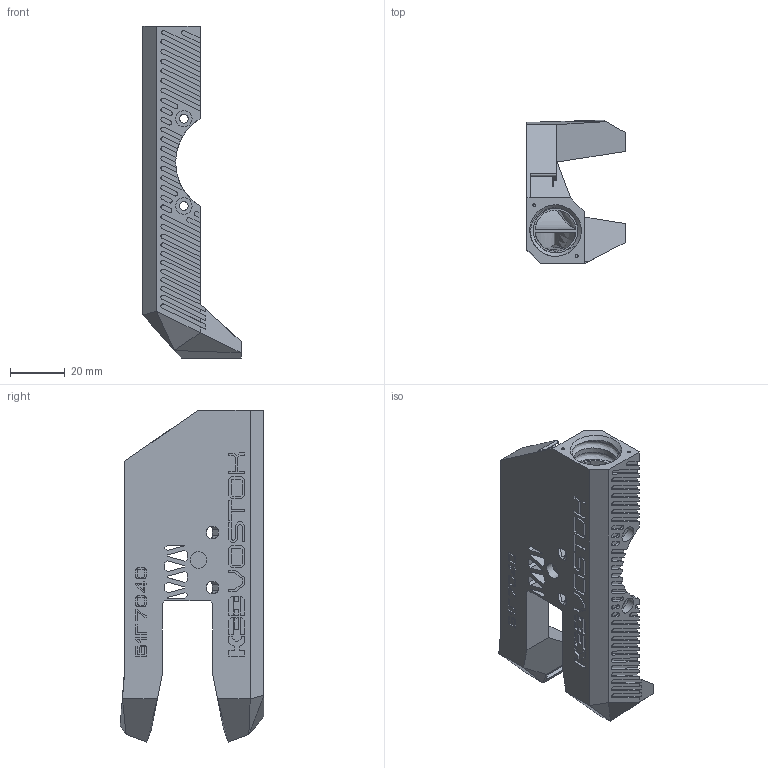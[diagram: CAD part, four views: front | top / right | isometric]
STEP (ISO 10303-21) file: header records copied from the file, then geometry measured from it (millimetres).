
FILE_DESCRIPTION(/* description */ ('CAx-IF Rec.Pracs.---Representation and Presentation of Product Manufacturing Information (PMI)---4.0---2014-10-13','CAx-IF Rec.Pracs.---3D Tessellated Geometry---0.4---2014-09-14','2;1'),/* implementation_level */ '2;1');
FILE_NAME(/* name */ 'B1G7040',/* time_stamp */ '2025-06-14T03:30:21+03:00',/* author */ (''),/* organization */ (''),/* preprocessor_version */ 'ST-DEVELOPER v20',/* originating_system */ 'SIEMENS PLM Software NX2406.6001',/* authorisation */ $);
FILE_SCHEMA (('AP242_MANAGED_MODEL_BASED_3D_ENGINEERING_MIM_LF { 1 0 10303 442 3 1 4 }'));
Length unit declared in the file: millimetre
Products named in the file (1): B1G7040
Bounding box: 36 x 52.7 x 121.72 mm (x, y, z)
Volume: 36590.6 mm3; surface area: 30553.3 mm2
Topology: 1 solids, 1 shells, 587 faces, 1633 edges, 1076 vertices
Faces by surface type: plane 433, cylinder 100, bspline 50, cone 4
Full cylindrical faces by diameter (mm): 1 x2, 3.2 x3, 6 x3
Entity records: 23612 total; most frequent: CARTESIAN_POINT 8000, ORIENTED_EDGE 3236, DIRECTION 2428, EDGE_CURVE 1618, VERTEX_POINT 1073, LINE 918, VECTOR 918, AXIS2_PLACEMENT_3D 755
